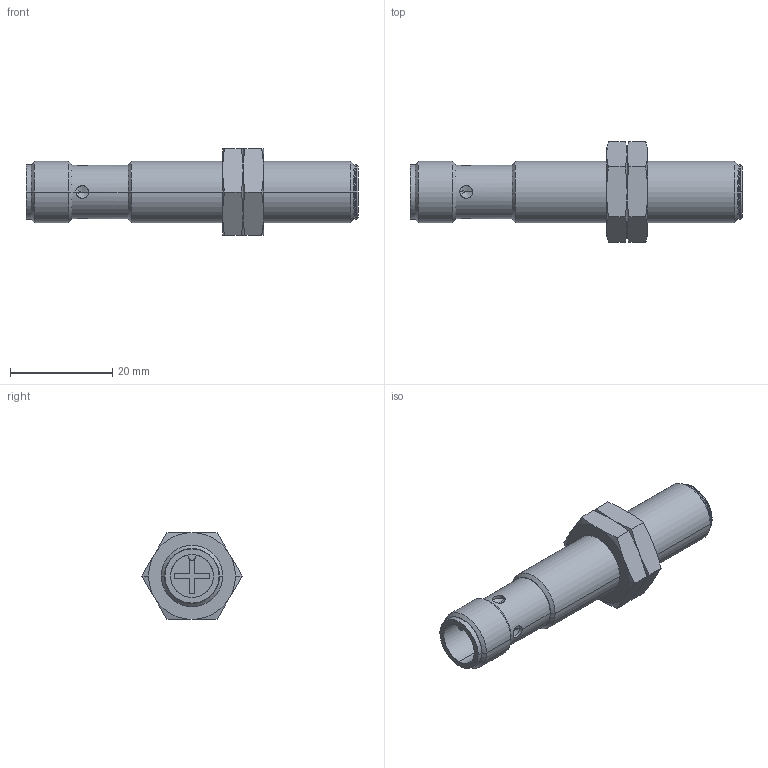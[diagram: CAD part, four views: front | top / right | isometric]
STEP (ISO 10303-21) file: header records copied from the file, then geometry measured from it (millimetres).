
FILE_DESCRIPTION( ( '' ), '1' );
FILE_NAME( '//partserver001.servicenet/client_exchange/iodir/jobs/output/wkb12408186_no0/STEP/ifc245_2_03.stp', '2008-10-07T07:25:12', ( '' ), ( '' ), ' ', ' ', ' ' );
FILE_SCHEMA( ( 'CONFIG_CONTROL_DESIGN' ) );
Length unit declared in the file: millimetre
Products named in the file (3): 1; 2; 3
Bounding box: 65 x 19.63 x 17 mm (x, y, z)
Volume: 7702.7 mm3; surface area: 4203.3 mm2
Topology: 3 solids, 3 shells, 128 faces, 297 edges, 175 vertices
Faces by surface type: cone 56, plane 39, cylinder 27, torus 6
Entity records: 3752 total; most frequent: CARTESIAN_POINT 831, DIRECTION 606, ORIENTED_EDGE 578, EDGE_CURVE 289, AXIS2_PLACEMENT_3D 246, VERTEX_POINT 175, EDGE_LOOP 140, ADVANCED_FACE 128
